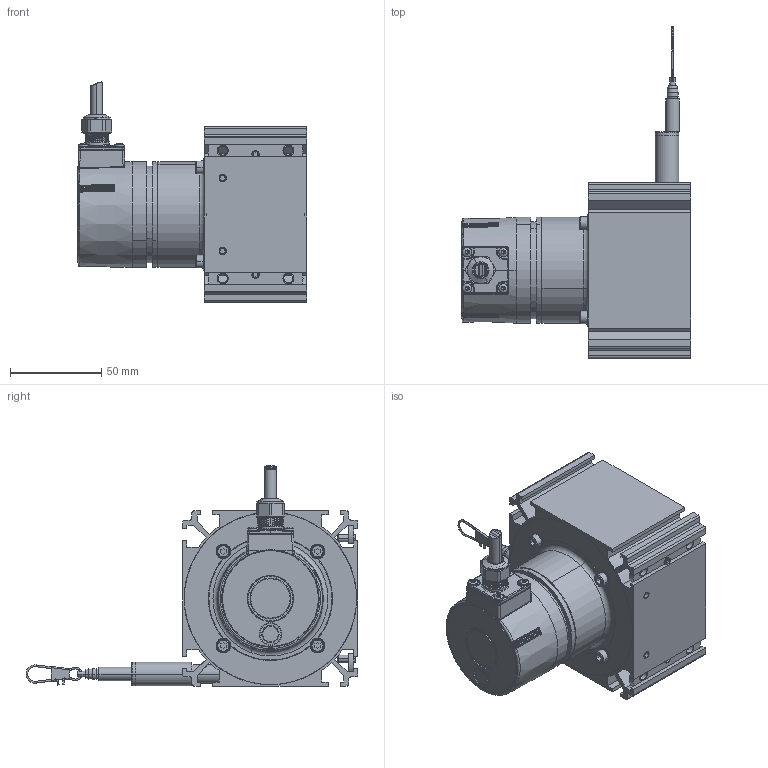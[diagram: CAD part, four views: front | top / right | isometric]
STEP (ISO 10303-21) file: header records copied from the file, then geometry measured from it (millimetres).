
FILE_DESCRIPTION((''),'2;1');
FILE_NAME('WDS-3000-P96-CR-TTL_02_ASM','2024-05-23T10:22:17',('15000597'),(''),'CREO PARAMETRIC BY PTC INC, 2022164','CREO PARAMETRIC BY PTC INC, 2022164','');
FILE_SCHEMA(('AUTOMOTIVE_DESIGN { 1 0 10303 214 1 1 1 1 }'));
Products named in the file (27): TELESO_SENZORU_3M_P96_CER_ELOX_AF0; ADAPTER_3M_P96_AF0; SROUB_ISO4026_STAV_HEX_M4X5_AF0; SROUB_ISO4026_STAV_HEX_M4X5_AF1; SROUB_ISO4026_STAV_HEX_M4X5_AF2; SROUB_ISO4026_STAV_HEX_M4X5_AF3; VIKO_SENZORU_P96_CERNY_ELOX; TRUBKA_PRUCHODKY_2I5M_P96_AF0; PL_VYOSENA_P96_P115; PRIRUBA_SYNCHRO_P96_P200_AF0; PODLOZKA_M4_VEJIROVA_AF0; SROUB_ISO4762_VALC_HEX_M4X6_AF0; PODLOZKA_M4_VEJIROVA_AF1; SROUB_ISO4762_VALC_HEX_M4X6_AF1; PODLOZKA_M4_VEJIROVA_AF2; SROUB_ISO4762_VALC_HEX_M4X6_AF2; PODLOZKA_M4_VEJIROVA_AF3; SROUB_ISO4762_VALC_HEX_M4X6_AF3; LANKO_7X7_0I63_0I8_AF0; GP_7I5X2I0X18_EXT_EPDM60; KARABINKA_SPECIALNI; UM_P96_M_IVO_ZASTARALE_AF0; UM_P96_M_IVO_ZASTARALE_AF1; SROUB_ISO4029_STAV_HEX_M4X10_AF0; SROUB_ISO4029_STAV_HEX_M4X10_AF1; BAU_SYNCHRO_TTL_EIL580-SY06I5RE; WDS-3000-P96-CR-TTL_02_ASM
Assembly tree (26 placements, depth 2):
  WDS-3000-P96-CR-TTL_02_ASM
    TELESO_SENZORU_3M_P96_CER_ELOX_AF0
    ADAPTER_3M_P96_AF0
    SROUB_ISO4026_STAV_HEX_M4X5_AF0
    SROUB_ISO4026_STAV_HEX_M4X5_AF1
    SROUB_ISO4026_STAV_HEX_M4X5_AF2
    SROUB_ISO4026_STAV_HEX_M4X5_AF3
    VIKO_SENZORU_P96_CERNY_ELOX
    TRUBKA_PRUCHODKY_2I5M_P96_AF0
    PL_VYOSENA_P96_P115
    PRIRUBA_SYNCHRO_P96_P200_AF0
    PODLOZKA_M4_VEJIROVA_AF0
    SROUB_ISO4762_VALC_HEX_M4X6_AF0
    PODLOZKA_M4_VEJIROVA_AF1
    SROUB_ISO4762_VALC_HEX_M4X6_AF1
    PODLOZKA_M4_VEJIROVA_AF2
    SROUB_ISO4762_VALC_HEX_M4X6_AF2
    PODLOZKA_M4_VEJIROVA_AF3
    SROUB_ISO4762_VALC_HEX_M4X6_AF3
    LANKO_7X7_0I63_0I8_AF0
    GP_7I5X2I0X18_EXT_EPDM60
    KARABINKA_SPECIALNI
    UM_P96_M_IVO_ZASTARALE_AF0
    UM_P96_M_IVO_ZASTARALE_AF1
    SROUB_ISO4029_STAV_HEX_M4X10_AF0
    SROUB_ISO4029_STAV_HEX_M4X10_AF1
    BAU_SYNCHRO_TTL_EIL580-SY06I5RE
Bounding box: 125.7 x 181.99 x 120.65 mm (x, y, z)
Volume: 143501.2 mm3; surface area: 133448 mm2
Topology: 26 solids, 52 shells, 1429 faces, 3844 edges, 2475 vertices
Faces by surface type: plane 584, cylinder 431, bspline 132, cone 119, torus 112, extrusion 18, sphere 17, revolution 16
Entity records: 76152 total; most frequent: CARTESIAN_POINT 28119, ORIENTED_EDGE 7512, DIRECTION 7044, EDGE_CURVE 3808, PRESENTATION_STYLE_ASSIGNMENT 2816, STYLED_ITEM 2812, AXIS2_PLACEMENT_3D 2753, VERTEX_POINT 2475
